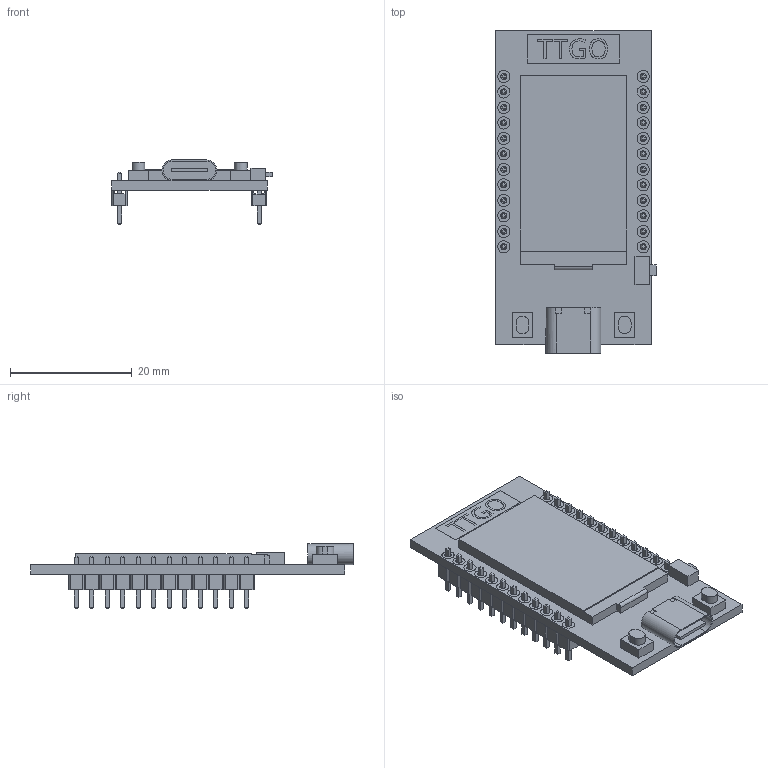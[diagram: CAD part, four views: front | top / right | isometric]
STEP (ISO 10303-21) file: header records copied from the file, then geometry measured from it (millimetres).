
FILE_DESCRIPTION(/* description */ ('STEP AP214'),/* implementation_level */ '2;1');
FILE_NAME(/* name */ '60bfafaf05486f07061feba0',/* time_stamp */ '2021-06-08T17:58:09+00:00',/* author */ (''),/* organization */ (''),/* preprocessor_version */ 'ST-DEVELOPER v18.1',/* originating_system */ ' ',/* authorisation */ ' ');
FILE_SCHEMA (('AUTOMOTIVE_DESIGN {1 0 10303 214 3 1 1}'));
Length unit declared in the file: metre
Products named in the file (4): Assembly 1; PinHeader_1x01_P254mm_V_SYM; Pcb
Assembly tree (7 placements, depth 2):
  Assembly 1
    PinHeader_1x01_P254mm_V_SYM  x4
    PinHeader_1x01_P254mm_V_SYM  x2
    Pcb
Bounding box: 26.34 x 52.9 x 10.55 mm (x, y, z)
Volume: 3626.2 mm3; surface area: 4716.9 mm2
Topology: 7 solids, 7 shells, 878 faces, 2161 edges, 1408 vertices
Faces by surface type: plane 767, cylinder 81, bspline 30
Full cylindrical faces by diameter (mm): 1 x24, 2 x48
Entity records: 14575 total; most frequent: CARTESIAN_POINT 2743, ORIENTED_EDGE 1926, DIRECTION 1823, EDGE_CURVE 963, LINE 711, VECTOR 711, VERTEX_POINT 680, EDGE_LOOP 635
